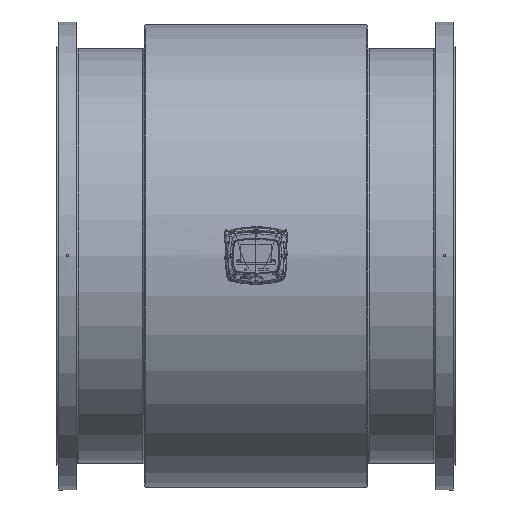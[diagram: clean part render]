
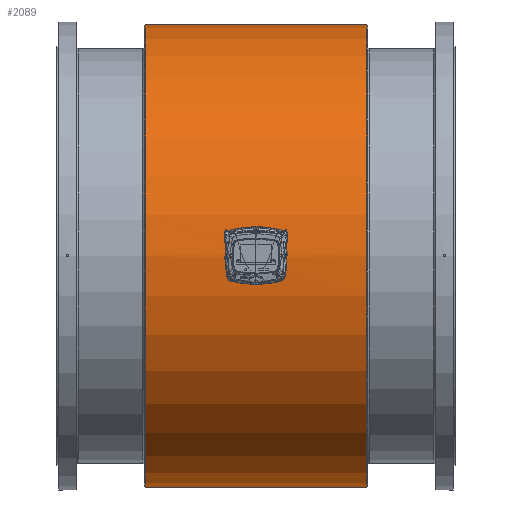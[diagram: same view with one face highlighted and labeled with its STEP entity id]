
A CAD part, top view. The second image highlights one B-rep face of the part: STEP entity #2089.
In plain terms, the highlighted cylindrical face has radius 580 mm (diameter 1160 mm), a full revolution.
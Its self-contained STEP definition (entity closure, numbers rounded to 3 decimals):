
#2024=CARTESIAN_POINT('',(0.,-11.5,579.886));
#2025=VERTEX_POINT('',#2024);
#2035=CARTESIAN_POINT('',(0.,-11.501,579.886));
#2036=CARTESIAN_POINT('',(1.727,-11.501,579.886));
#2037=CARTESIAN_POINT('',(5.183,-10.715,579.902));
#2038=CARTESIAN_POINT('',(9.339,-7.417,579.958));
#2039=CARTESIAN_POINT('',(11.646,-2.645,580.002));
#2040=CARTESIAN_POINT('',(11.642,2.056,580.002));
#2041=CARTESIAN_POINT('',(9.728,6.919,579.965));
#2042=CARTESIAN_POINT('',(6.648,9.776,579.918));
#2043=CARTESIAN_POINT('',(3.417,11.03,579.895));
#2044=CARTESIAN_POINT('',(0.04,11.806,579.88));
#2045=CARTESIAN_POINT('',(-4.721,11.087,579.896));
#2046=CARTESIAN_POINT('',(-9.338,7.413,579.958));
#2047=CARTESIAN_POINT('',(-11.645,2.647,580.002));
#2048=CARTESIAN_POINT('',(-11.645,-2.646,580.002));
#2049=CARTESIAN_POINT('',(-9.339,-7.416,579.958));
#2050=CARTESIAN_POINT('',(-5.183,-10.715,579.902));
#2051=CARTESIAN_POINT('',(-1.728,-11.501,579.886));
#2052=CARTESIAN_POINT('',(0.,-11.501,579.886));
#2053=B_SPLINE_CURVE_WITH_KNOTS('',3,(#2035,#2036,#2037,#2038,#2039,#2040,#2041,#2042,#2043,#2044,#2045,#2046,#2047,#2048,#2049,#2050,#2051,#2052),.UNSPECIFIED.,.T.,.U.,(4,1,1,1,1,1,1,1,1,1,1,1,1,1,1,4),(-7.224,-6.708,-6.192,-5.676,-5.16,-4.816,-4.128,-3.956,-3.784,-3.096,-2.58,-2.064,-1.548,-1.032,-0.516,0.0),.UNSPECIFIED.);
#2054=EDGE_CURVE('',#2025,#2025,#2053,.T.);
#2059=CARTESIAN_POINT('',(139.0,0.0,0.0));
#2060=DIRECTION('',(1.0,0.0,0.0));
#2061=DIRECTION('',(0.0,1.0,0.0));
#2062=AXIS2_PLACEMENT_3D('',#2059,#2060,#2061);
#2063=CYLINDRICAL_SURFACE('',#2062,580.);
#2064=CARTESIAN_POINT('',(-278.,580.,0.0));
#2065=VERTEX_POINT('',#2064);
#2066=CARTESIAN_POINT('',(-278.,0.0,0.0));
#2067=DIRECTION('',(1.0,0.0,0.0));
#2068=DIRECTION('',(0.0,1.0,0.0));
#2069=AXIS2_PLACEMENT_3D('',#2066,#2067,#2068);
#2070=CIRCLE('',#2069,580.);
#2071=EDGE_CURVE('',#2065,#2065,#2070,.T.);
#2072=ORIENTED_EDGE('',*,*,#2071,.T.);
#2073=EDGE_LOOP('',(#2072));
#2074=FACE_OUTER_BOUND('',#2073,.T.);
#2075=CARTESIAN_POINT('',(278.,580.,0.0));
#2076=VERTEX_POINT('',#2075);
#2077=CARTESIAN_POINT('',(278.0,0.0,0.0));
#2078=DIRECTION('',(1.0,0.0,0.0));
#2079=DIRECTION('',(0.0,1.0,0.0));
#2080=AXIS2_PLACEMENT_3D('',#2077,#2078,#2079);
#2081=CIRCLE('',#2080,580.);
#2082=EDGE_CURVE('',#2076,#2076,#2081,.T.);
#2083=ORIENTED_EDGE('',*,*,#2082,.F.);
#2084=EDGE_LOOP('',(#2083));
#2085=FACE_BOUND('',#2084,.T.);
#2086=ORIENTED_EDGE('',*,*,#2054,.F.);
#2087=EDGE_LOOP('',(#2086));
#2088=FACE_BOUND('',#2087,.T.);
#2089=ADVANCED_FACE('',(#2074,#2085,#2088),#2063,.T.);
